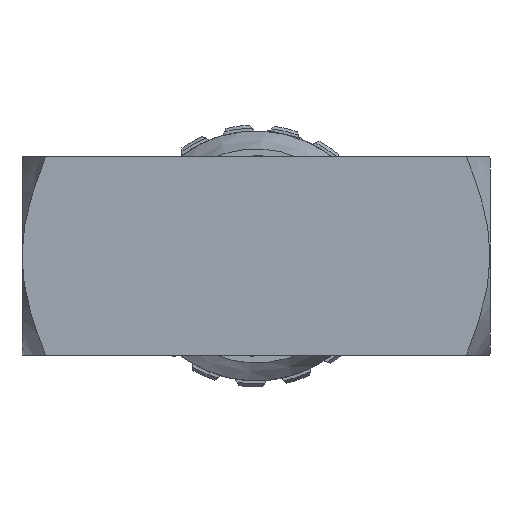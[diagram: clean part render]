
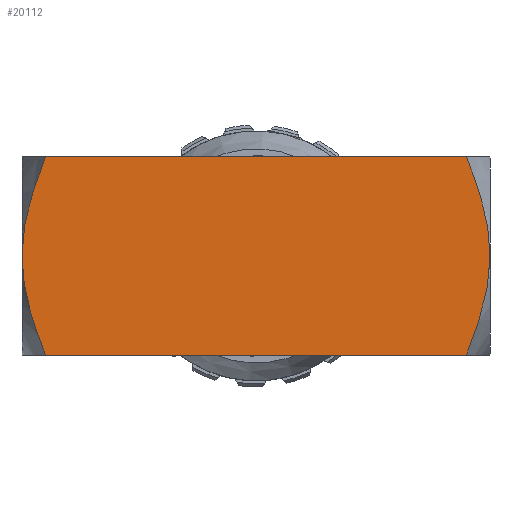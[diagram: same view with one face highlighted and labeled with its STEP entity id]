
A CAD part, front view. The second image highlights one B-rep face of the part: STEP entity #20112.
In plain terms, the highlighted planar face has unit normal (0, -1, 0).
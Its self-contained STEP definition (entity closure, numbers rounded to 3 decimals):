
#585 = CARTESIAN_POINT ( 'NONE',  ( 29.34, -12.5, -2.699 ) ) ;
#678 = CARTESIAN_POINT ( 'NONE',  ( -28.02, -12.5, 8.444 ) ) ;
#882 = CARTESIAN_POINT ( 'NONE',  ( 26.511, -12.5, -12.5 ) ) ;
#1030 = CARTESIAN_POINT ( 'NONE',  ( -29.109, -12.5, -4.297 ) ) ;
#1268 = CARTESIAN_POINT ( 'NONE',  ( 28.02, -12.5, 8.444 ) ) ;
#2833 = CARTESIAN_POINT ( 'NONE',  ( 29.5, -12.5, 12.5 ) ) ;
#3076 = B_SPLINE_CURVE_WITH_KNOTS ( 'NONE', 3,
 ( #13368, #6224, #38966, #19777, #585, #22984, #3835, #26161, #7056, #29419, #10258, #32662 ),
 .UNSPECIFIED., .F., .F.,
 ( 4, 2, 2, 2, 2, 4 ),
 ( 0.045, 0.047, 0.049, 0.052, 0.055, 0.058 ),
 .UNSPECIFIED. ) ;
#3784 = CARTESIAN_POINT ( 'NONE',  ( 29.5, -12.5, 0. ) ) ;
#3835 = CARTESIAN_POINT ( 'NONE',  ( 28.886, -12.5, -5.347 ) ) ;
#3927 = CARTESIAN_POINT ( 'NONE',  ( -26.919, -12.5, 11.501 ) ) ;
#4064 = ORIENTED_EDGE ( 'NONE', *, *, #35884, .F. ) ;
#4253 = CARTESIAN_POINT ( 'NONE',  ( -29.399, -12.5, -2.163 ) ) ;
#4480 = CARTESIAN_POINT ( 'NONE',  ( 28.891, -12.5, 5.326 ) ) ;
#6224 = CARTESIAN_POINT ( 'NONE',  ( 29.5, -12.5, -0.538 ) ) ;
#6592 = EDGE_CURVE ( 'NONE', #20753, #10198, #40224, .T. ) ;
#7056 = CARTESIAN_POINT ( 'NONE',  ( 28.017, -12.5, -8.453 ) ) ;
#7139 = VECTOR ( 'NONE', #11452, 1000. ) ;
#7469 = CARTESIAN_POINT ( 'NONE',  ( -29.5, -12.5, -0.538 ) ) ;
#7698 = CARTESIAN_POINT ( 'NONE',  ( 29.417, -12.5, 2.156 ) ) ;
#8487 = EDGE_CURVE ( 'NONE', #10198, #34538, #15458, .T. ) ;
#10198 = VERTEX_POINT ( 'NONE', #27611 ) ;
#10258 = CARTESIAN_POINT ( 'NONE',  ( 26.918, -12.5, -11.502 ) ) ;
#10347 = ORIENTED_EDGE ( 'NONE', *, *, #8487, .F. ) ;
#10890 = EDGE_CURVE ( 'NONE', #27493, #29924, #41094, .T. ) ;
#10925 = CARTESIAN_POINT ( 'NONE',  ( 29.5, -12.5, 0. ) ) ;
#10931 = VECTOR ( 'NONE', #28397, 1000. ) ;
#11359 = EDGE_LOOP ( 'NONE', ( #27627, #28270, #4064, #10347, #21118, #27388 ) ) ;
#11452 = DIRECTION ( 'NONE',  ( -1., 0., 0. ) ) ;
#13368 = CARTESIAN_POINT ( 'NONE',  ( 29.5, -12.5, 0. ) ) ;
#13459 = CARTESIAN_POINT ( 'NONE',  ( -29.5, -12.5, 1.085 ) ) ;
#13798 = CARTESIAN_POINT ( 'NONE',  ( -26.918, -12.5, -11.502 ) ) ;
#15238 = CARTESIAN_POINT ( 'NONE',  ( 26.511, -12.5, 12.5 ) ) ;
#15458 = B_SPLINE_CURVE_WITH_KNOTS ( 'NONE', 3,
 ( #32943, #13798, #36160, #16966, #39401, #20184, #1030, #23384, #4253, #26589, #7469, #29845 ),
 .UNSPECIFIED., .F., .F.,
 ( 4, 2, 2, 2, 2, 4 ),
 ( 0.014, 0.017, 0.02, 0.023, 0.025, 0.027 ),
 .UNSPECIFIED. ) ;
#16149 = CARTESIAN_POINT ( 'NONE',  ( 29.5, -12.5, -12.5 ) ) ;
#16627 = CARTESIAN_POINT ( 'NONE',  ( -29.112, -12.5, 4.277 ) ) ;
#16966 = CARTESIAN_POINT ( 'NONE',  ( -28.017, -12.5, -8.453 ) ) ;
#17190 = CARTESIAN_POINT ( 'NONE',  ( 26.511, -12.5, 12.5 ) ) ;
#18772 = B_SPLINE_CURVE_WITH_KNOTS ( 'NONE', 3,
 ( #29361, #13459, #35829, #16627, #39057, #19866, #678, #23058, #3927, #26248 ),
 .UNSPECIFIED., .F., .F.,
 ( 4, 2, 2, 2, 4 ),
 ( 0.027, 0.03, 0.033, 0.036, 0.04 ),
 .UNSPECIFIED. ) ;
#19154 = AXIS2_PLACEMENT_3D ( 'NONE', #16149, #38542, #19353 ) ;
#19353 = DIRECTION ( 'NONE',  ( 0., 0., 1. ) ) ;
#19777 = CARTESIAN_POINT ( 'NONE',  ( 29.399, -12.5, -2.163 ) ) ;
#19866 = CARTESIAN_POINT ( 'NONE',  ( -28.345, -12.5, 7.408 ) ) ;
#20112 = ADVANCED_FACE ( 'NONE', ( #26449 ), #35158, .F. ) ;
#20184 = CARTESIAN_POINT ( 'NONE',  ( -28.886, -12.5, -5.347 ) ) ;
#20414 = CARTESIAN_POINT ( 'NONE',  ( 27.306, -12.5, 10.492 ) ) ;
#20753 = VERTEX_POINT ( 'NONE', #882 ) ;
#21118 = ORIENTED_EDGE ( 'NONE', *, *, #6592, .F. ) ;
#22384 = EDGE_CURVE ( 'NONE', #29924, #20753, #3076, .T. ) ;
#22749 = EDGE_CURVE ( 'NONE', #27493, #37944, #35463, .T. ) ;
#22984 = CARTESIAN_POINT ( 'NONE',  ( 29.109, -12.5, -4.297 ) ) ;
#23058 = CARTESIAN_POINT ( 'NONE',  ( -27.306, -12.5, 10.492 ) ) ;
#23384 = CARTESIAN_POINT ( 'NONE',  ( -29.34, -12.5, -2.699 ) ) ;
#23607 = CARTESIAN_POINT ( 'NONE',  ( 28.345, -12.5, 7.408 ) ) ;
#24026 = CARTESIAN_POINT ( 'NONE',  ( -29.5, -12.5, 0. ) ) ;
#25543 = CARTESIAN_POINT ( 'NONE',  ( 29.5, -12.5, -12.5 ) ) ;
#26161 = CARTESIAN_POINT ( 'NONE',  ( 28.34, -12.5, -7.425 ) ) ;
#26248 = CARTESIAN_POINT ( 'NONE',  ( -26.511, -12.5, 12.5 ) ) ;
#26449 = FACE_OUTER_BOUND ( 'NONE', #11359, .T. ) ;
#26589 = CARTESIAN_POINT ( 'NONE',  ( -29.48, -12.5, -1.081 ) ) ;
#26827 = CARTESIAN_POINT ( 'NONE',  ( 29.112, -12.5, 4.277 ) ) ;
#27388 = ORIENTED_EDGE ( 'NONE', *, *, #22384, .F. ) ;
#27493 = VERTEX_POINT ( 'NONE', #15238 ) ;
#27611 = CARTESIAN_POINT ( 'NONE',  ( -26.511, -12.5, -12.5 ) ) ;
#27627 = ORIENTED_EDGE ( 'NONE', *, *, #10890, .F. ) ;
#28270 = ORIENTED_EDGE ( 'NONE', *, *, #22749, .T. ) ;
#28397 = DIRECTION ( 'NONE',  ( -1., 0., 0. ) ) ;
#29361 = CARTESIAN_POINT ( 'NONE',  ( -29.5, -12.5, 0. ) ) ;
#29419 = CARTESIAN_POINT ( 'NONE',  ( 27.305, -12.5, -10.495 ) ) ;
#29845 = CARTESIAN_POINT ( 'NONE',  ( -29.5, -12.5, 0. ) ) ;
#29924 = VERTEX_POINT ( 'NONE', #3784 ) ;
#30081 = CARTESIAN_POINT ( 'NONE',  ( 29.5, -12.5, 1.085 ) ) ;
#32662 = CARTESIAN_POINT ( 'NONE',  ( 26.511, -12.5, -12.5 ) ) ;
#32943 = CARTESIAN_POINT ( 'NONE',  ( -26.511, -12.5, -12.5 ) ) ;
#33170 = CARTESIAN_POINT ( 'NONE',  ( 26.919, -12.5, 11.501 ) ) ;
#34538 = VERTEX_POINT ( 'NONE', #24026 ) ;
#35158 = PLANE ( 'NONE',  #19154 ) ;
#35463 = LINE ( 'NONE', #2833, #10931 ) ;
#35829 = CARTESIAN_POINT ( 'NONE',  ( -29.417, -12.5, 2.156 ) ) ;
#35884 = EDGE_CURVE ( 'NONE', #34538, #37944, #18772, .T. ) ;
#36160 = CARTESIAN_POINT ( 'NONE',  ( -27.305, -12.5, -10.495 ) ) ;
#37701 = CARTESIAN_POINT ( 'NONE',  ( -26.511, -12.5, 12.5 ) ) ;
#37944 = VERTEX_POINT ( 'NONE', #37701 ) ;
#38542 = DIRECTION ( 'NONE',  ( 0., 1., 0. ) ) ;
#38966 = CARTESIAN_POINT ( 'NONE',  ( 29.48, -12.5, -1.081 ) ) ;
#39057 = CARTESIAN_POINT ( 'NONE',  ( -28.891, -12.5, 5.326 ) ) ;
#39401 = CARTESIAN_POINT ( 'NONE',  ( -28.34, -12.5, -7.425 ) ) ;
#40224 = LINE ( 'NONE', #25543, #7139 ) ;
#41094 = B_SPLINE_CURVE_WITH_KNOTS ( 'NONE', 3,
 ( #17190, #33170, #20414, #1268, #23607, #4480, #26827, #7698, #30081, #10925 ),
 .UNSPECIFIED., .F., .F.,
 ( 4, 2, 2, 2, 4 ),
 ( 0.032, 0.036, 0.039, 0.042, 0.045 ),
 .UNSPECIFIED. ) ;
